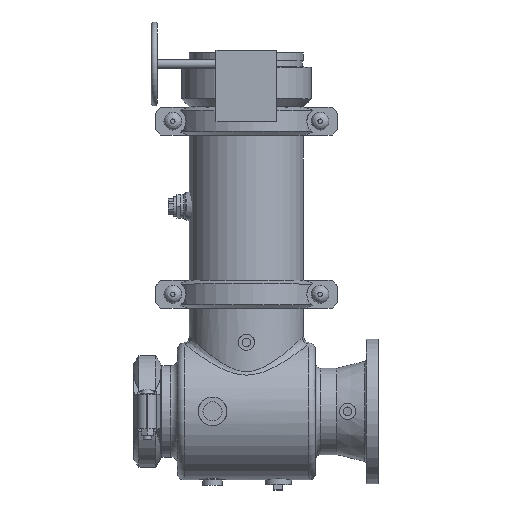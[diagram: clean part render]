
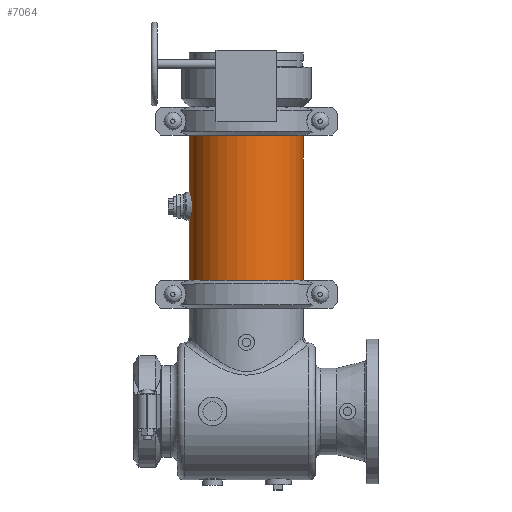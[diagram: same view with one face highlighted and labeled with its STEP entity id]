
A CAD part, top view. The second image highlights one B-rep face of the part: STEP entity #7064.
In plain terms, the highlighted cylindrical face has radius 136.525 mm (diameter 273.05 mm), a full revolution.
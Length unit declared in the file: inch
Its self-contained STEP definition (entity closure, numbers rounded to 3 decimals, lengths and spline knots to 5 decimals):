
#695=FACE_OUTER_BOUND('',#1144,.T.);
#1144=EDGE_LOOP('',(#5334,#5335,#5336,#5337,#5338,#5339));
#1613=CIRCLE('',#7866,5.375);
#1614=CIRCLE('',#7867,5.375);
#1615=CIRCLE('',#7869,5.375);
#1616=CIRCLE('',#7870,5.375);
#2032=LINE('',#12580,#2494);
#2494=VECTOR('',#9327,5.375);
#3075=VERTEX_POINT('',#12571);
#3076=VERTEX_POINT('',#12572);
#3077=VERTEX_POINT('',#12576);
#3078=VERTEX_POINT('',#12577);
#3888=EDGE_CURVE('',#3075,#3076,#1613,.T.);
#3889=EDGE_CURVE('',#3076,#3075,#1614,.T.);
#3890=EDGE_CURVE('',#3077,#3078,#1615,.T.);
#3891=EDGE_CURVE('',#3078,#3077,#1616,.T.);
#3892=EDGE_CURVE('',#3078,#3076,#2032,.T.);
#5334=ORIENTED_EDGE('',*,*,#3890,.F.);
#5335=ORIENTED_EDGE('',*,*,#3891,.F.);
#5336=ORIENTED_EDGE('',*,*,#3892,.T.);
#5337=ORIENTED_EDGE('',*,*,#3889,.T.);
#5338=ORIENTED_EDGE('',*,*,#3888,.T.);
#5339=ORIENTED_EDGE('',*,*,#3892,.F.);
#6421=CYLINDRICAL_SURFACE('',#7868,5.375);
#7064=ADVANCED_FACE('',(#695),#6421,.T.);
#7866=AXIS2_PLACEMENT_3D('',#12573,#9317,#9318);
#7867=AXIS2_PLACEMENT_3D('',#12574,#9319,#9320);
#7868=AXIS2_PLACEMENT_3D('',#12575,#9321,#9322);
#7869=AXIS2_PLACEMENT_3D('',#12578,#9323,#9324);
#7870=AXIS2_PLACEMENT_3D('',#12579,#9325,#9326);
#9317=DIRECTION('center_axis',(0.,-1.,0.));
#9318=DIRECTION('ref_axis',(1.,0.,0.));
#9319=DIRECTION('center_axis',(0.,-1.,0.));
#9320=DIRECTION('ref_axis',(1.,0.,0.));
#9321=DIRECTION('center_axis',(0.,-1.,0.));
#9322=DIRECTION('ref_axis',(1.,0.,0.));
#9323=DIRECTION('center_axis',(0.,-1.,0.));
#9324=DIRECTION('ref_axis',(1.,0.,0.));
#9325=DIRECTION('center_axis',(0.,-1.,0.));
#9326=DIRECTION('ref_axis',(1.,0.,0.));
#9327=DIRECTION('',(0.,1.,0.));
#12571=CARTESIAN_POINT('',(5.375,6.875,0.));
#12572=CARTESIAN_POINT('',(-5.375,6.875,0.));
#12573=CARTESIAN_POINT('Origin',(0.,6.875,0.));
#12574=CARTESIAN_POINT('Origin',(0.,6.875,0.));
#12575=CARTESIAN_POINT('Origin',(0.,0.,
0.));
#12576=CARTESIAN_POINT('',(5.375,-6.875,0.));
#12577=CARTESIAN_POINT('',(-5.375,-6.875,0.));
#12578=CARTESIAN_POINT('Origin',(0.,-6.875,0.));
#12579=CARTESIAN_POINT('Origin',(0.,-6.875,0.));
#12580=CARTESIAN_POINT('',(-5.375,0.,0.));
